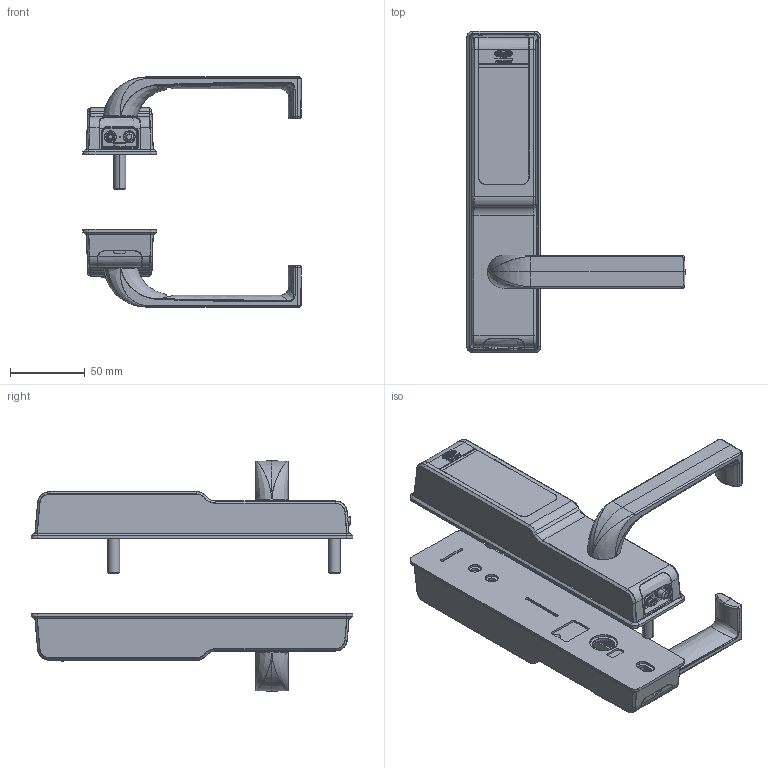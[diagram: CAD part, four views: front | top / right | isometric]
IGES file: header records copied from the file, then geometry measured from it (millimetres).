
Start section: SolidWorks IGES file using analytic representation for surfaces
Global section: file name: C:\UGS\SW_working_directory\CTX530 IGS assy.IGS; native system: SolidWorks 2016; preprocessor: SolidWorks 2016; author: cracas; date: 160927.152808; units: millimetre
Bounding box: 146.2 x 215.4 x 154.3 mm (x, y, z)
Surface area: 125635.1 mm2 (no closed solid volume)
Topology: 0 solids, 0 shells, 699 faces, 10387 edges, 10375 vertices
Faces by surface type: bspline 428, revolution 271
